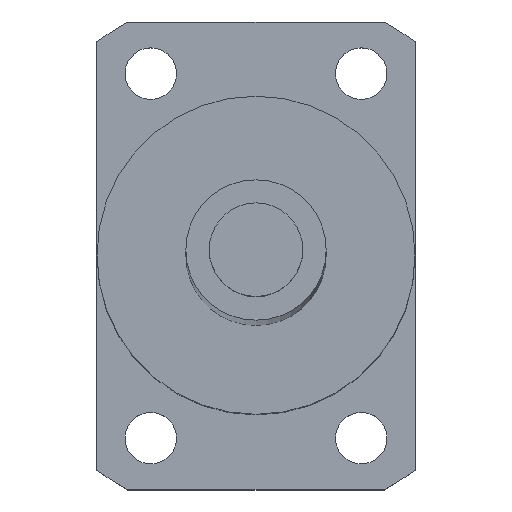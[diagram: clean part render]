
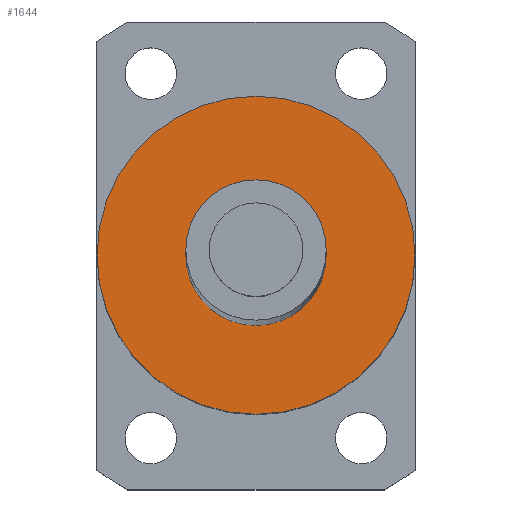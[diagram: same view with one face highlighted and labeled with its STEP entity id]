
A CAD part, top view. The second image highlights one B-rep face of the part: STEP entity #1644.
In plain terms, the highlighted planar face has unit normal (0, 0, 1).
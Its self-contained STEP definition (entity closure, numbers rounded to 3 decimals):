
#512=CARTESIAN_POINT('',(0.,0.,432.5));
#513=DIRECTION('',(0.,0.,1.));
#514=DIRECTION('',(1.,0.,0.));
#515=AXIS2_PLACEMENT_3D('',#512,#513,#514);
#517=CARTESIAN_POINT('',(0.,0.,432.5));
#518=DIRECTION('',(0.,0.,1.));
#519=DIRECTION('',(-1.,0.,0.));
#520=AXIS2_PLACEMENT_3D('',#517,#518,#519);
#522=CARTESIAN_POINT('',(0.,0.,432.5));
#523=DIRECTION('',(0.,0.,1.));
#524=DIRECTION('',(1.,0.,0.));
#525=AXIS2_PLACEMENT_3D('',#522,#523,#524);
#527=CARTESIAN_POINT('',(0.,0.,432.5));
#528=DIRECTION('',(0.,0.,1.));
#529=DIRECTION('',(-1.,0.,0.));
#530=AXIS2_PLACEMENT_3D('',#527,#528,#529);
#757=CARTESIAN_POINT('',(17.,0.,432.5));
#758=CARTESIAN_POINT('',(-17.,0.,432.5));
#759=VERTEX_POINT('',#757);
#760=VERTEX_POINT('',#758);
#769=CARTESIAN_POINT('',(7.5,0.,432.5));
#770=CARTESIAN_POINT('',(-7.5,0.,432.5));
#771=VERTEX_POINT('',#769);
#772=VERTEX_POINT('',#770);
#1629=CARTESIAN_POINT('',(0.,0.,432.5));
#1630=DIRECTION('',(0.,0.,1.));
#1631=DIRECTION('',(1.,0.,0.));
#1632=AXIS2_PLACEMENT_3D('',#1629,#1630,#1631);
#1633=PLANE('',#1632);
#1634=ORIENTED_EDGE('',*,*,#1609,.F.);
#1635=ORIENTED_EDGE('',*,*,#1623,.F.);
#1636=EDGE_LOOP('',(#1634,#1635));
#1637=FACE_OUTER_BOUND('',#1636,.F.);
#1639=ORIENTED_EDGE('',*,*,#1638,.T.);
#1641=ORIENTED_EDGE('',*,*,#1640,.T.);
#1642=EDGE_LOOP('',(#1639,#1641));
#1643=FACE_BOUND('',#1642,.F.);
#1644=ADVANCED_FACE('',(#1637,#1643),#1633,.T.);
#516=CIRCLE('',#515,17.);
#521=CIRCLE('',#520,17.);
#526=CIRCLE('',#525,7.5);
#531=CIRCLE('',#530,7.5);
#1609=EDGE_CURVE('',#759,#760,#516,.T.);
#1623=EDGE_CURVE('',#760,#759,#521,.T.);
#1638=EDGE_CURVE('',#771,#772,#526,.T.);
#1640=EDGE_CURVE('',#772,#771,#531,.T.);
